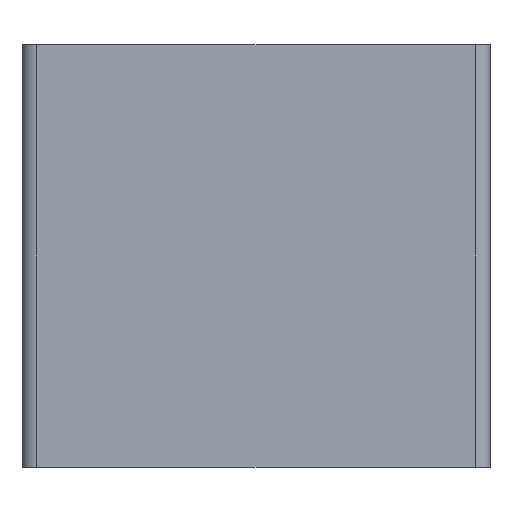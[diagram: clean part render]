
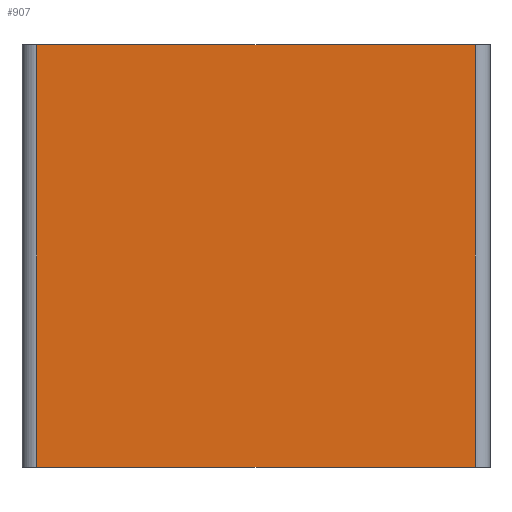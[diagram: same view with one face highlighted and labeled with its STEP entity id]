
A CAD part, left-side view. The second image highlights one B-rep face of the part: STEP entity #907.
In plain terms, the highlighted planar face has unit normal (-1, 0, 0).
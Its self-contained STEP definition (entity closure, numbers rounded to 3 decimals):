
#82=LINE('',#1437,#182);
#94=LINE('',#1465,#194);
#97=LINE('',#1472,#197);
#99=LINE('',#1475,#199);
#182=VECTOR('',#1161,75.);
#194=VECTOR('',#1195,77.708);
#197=VECTOR('',#1202,77.708);
#199=VECTOR('',#1206,75.);
#248=PLANE('',#986);
#303=FACE_OUTER_BOUND('',#359,.T.);
#359=EDGE_LOOP('',(#801,#802,#803,#804));
#455=VERTEX_POINT('',#1434);
#456=VERTEX_POINT('',#1436);
#461=VERTEX_POINT('',#1463);
#463=VERTEX_POINT('',#1471);
#555=EDGE_CURVE('',#456,#455,#82,.T.);
#570=EDGE_CURVE('',#461,#455,#94,.T.);
#573=EDGE_CURVE('',#456,#463,#97,.T.);
#575=EDGE_CURVE('',#461,#463,#99,.T.);
#801=ORIENTED_EDGE('',*,*,#555,.T.);
#802=ORIENTED_EDGE('',*,*,#570,.F.);
#803=ORIENTED_EDGE('',*,*,#575,.T.);
#804=ORIENTED_EDGE('',*,*,#573,.F.);
#907=ADVANCED_FACE('',(#303),#248,.T.);
#986=AXIS2_PLACEMENT_3D('',#1489,#1222,#1223);
#1161=DIRECTION('',(0.,0.,1.));
#1195=DIRECTION('',(0.,-1.,0.));
#1202=DIRECTION('',(0.,1.,0.));
#1206=DIRECTION('',(0.,0.,-1.));
#1222=DIRECTION('center_axis',(-1.,0.,0.));
#1223=DIRECTION('ref_axis',(0.,0.,1.));
#1434=CARTESIAN_POINT('',(-25.,-78.724,37.5));
#1436=CARTESIAN_POINT('',(-25.,-78.724,-37.5));
#1437=CARTESIAN_POINT('',(-25.,-78.724,-18.75));
#1463=CARTESIAN_POINT('',(-25.,-1.016,37.5));
#1465=CARTESIAN_POINT('',(-25.,-1.016,37.5));
#1471=CARTESIAN_POINT('',(-25.,-1.016,-37.5));
#1472=CARTESIAN_POINT('',(-25.,4.429,-37.5));
#1475=CARTESIAN_POINT('',(-25.,-1.016,0.));
#1489=CARTESIAN_POINT('Origin',(-25.,-39.832,0.));
